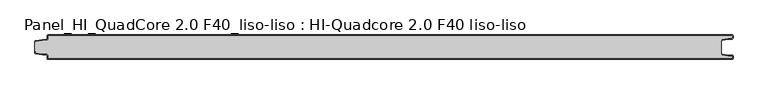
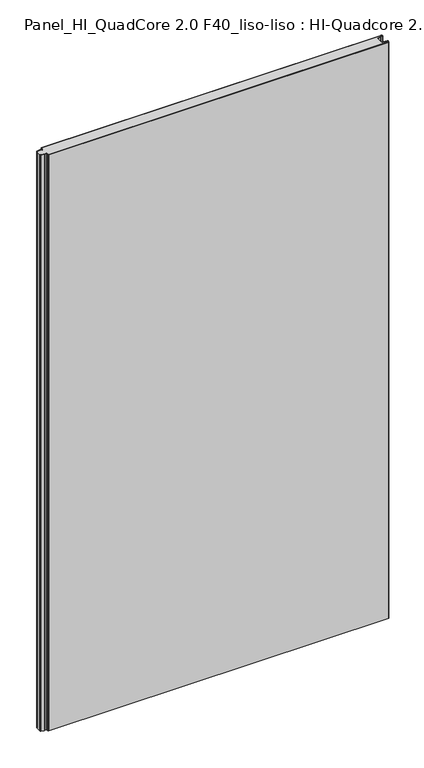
"""IFC4 building model written with IfcOpenShell, lengths in millimetres: proxy geometry, Panel_HI_QuadCore 2.0 F40_liso-liso : HI-Quadcore 2.0 F40 liso-liso."""

from ifc_helpers import new_model, si_unit, frame, origin, place, context, project, spatial, polyline, circle_curve, source, transform, mapped, element, save
from ifc_brep_helpers import plane_surface, cylinder_surface, revolved_surface, advanced_brep


def panel_hi_quadcore_2_0_f40_liso_liso_hi_quadcore_2_0_f40_liso_9a9d5de7(model_context):
    return source(origin(), model_context, "Body", "AdvancedBrep", [
        advanced_brep(
        [(-569.749769, 9.1481606, 2000.0), (-568.949769, 9.1481606, 2000.0), (-568.3256589, 9.9285853, 2000.0), (-557.4184469, 11.6653196, 2000.0), (-556.6203766, 11.7, 2000.0), (-551.2778156, 11.7, 2000.0), (-548.878158, 14.1405306, 2000.0), (-548.9498729, 18.3864898, 2000.0), (-548.149987, 19.2, 2000.0), (568.1727824, 19.2, 2000.0), (568.9534193, 18.5748531, 2000.0), (568.88074, 14.6849948, 2000.0), (568.0808796, 13.8999396, 2000.0), (562.879136, 13.8999396, 2000.0), (561.808194, 13.8495248, 2000.0), (552.0886544, 12.3019012, 2000.0), (552.2144521, 11.5118538, 2000.0), (561.908313, 13.0553886, 2000.0), (562.879136, 13.0999396, 2000.0), (568.0808796, 13.0999396, 2000.0), (569.6806004, 14.67005, 2000.0), (569.7547679, 18.63956, 2000.0), (568.1727824, 19.9995126, 2000.0), (-548.1499863, 20.0, 2000.0), (-549.7497588, 18.3729796, 2000.0), (-549.6780439, 14.1270204, 2000.0), (-551.2778156, 12.5, 2000.0), (-556.6203766, 12.5, 2000.0), (-557.5167536, 12.4597444, 2000.0), (-568.4723295, 10.7153092, 2000.0), (-569.749769, 9.1481606, 0.0), (-568.4723295, 10.7153092, 0.0), (-557.5167536, 12.4597444, 0.0), (-556.6203766, 12.5, 0.0), (-551.2778156, 12.5, 0.0), (-549.6780439, 14.1270204, 0.0), (-549.7497588, 18.3729796, 0.0), (-548.1499863, 20.0, 0.0), (568.1727824, 19.9995126, 0.0), (569.7547679, 18.63956, 0.0), (569.6806004, 14.67005, 0.0), (568.0808796, 13.0999396, 0.0), (562.879136, 13.0999396, 0.0), (561.908313, 13.0553886, 0.0), (552.2144521, 11.5118538, 0.0), (552.0886544, 12.3019012, 0.0), (561.808194, 13.8495248, 0.0), (562.879136, 13.8999396, 0.0), (568.0808796, 13.8999396, 0.0), (568.88074, 14.6849948, 0.0), (568.9534193, 18.5748531, 0.0), (568.1727824, 19.1995126, 0.0), (-548.149987, 19.2, 0.0), (-548.9498729, 18.3864898, 0.0), (-548.878158, 14.1405306, 0.0), (-551.2778156, 11.7, 0.0), (-556.6203766, 11.7, 0.0), (-557.4184469, 11.6653196, 0.0), (-568.3256589, 9.9285853, 0.0), (-568.949769, 9.1481606, 0.0)],
        [
            (0, 1),
            (1, 2, circle_curve(frame((-568.149769, 9.1481606, 2000.0), z_axis=(0.0, 0.0, -1.0), x_axis=(1.0, 0.0, 0.0)), 0.8)),
            (2, 3),
            (3, 4, circle_curve(frame((-556.6203766, 2.5, 2000.0), z_axis=(0.0, 0.0, -1.0), x_axis=(1.0, 0.0, 0.0)), 9.2)),
            (4, 5),
            (5, 6, circle_curve(frame((-551.2778156, 14.1, 2000.0), z_axis=(0.0, 0.0, 1.0), x_axis=(1.0, 0.0, 0.0)), 2.3999999)),
            (6, 7),
            (7, 8, circle_curve(frame((-548.149987, 18.4, 2000.0), z_axis=(0.0, 0.0, -1.0), x_axis=(1.0, 0.0, 0.0)), 0.8)),
            (8, 9),
            (9, 10, circle_curve(frame((568.1727824, 18.3994019, 2000.0), z_axis=(0.0, 0.0, -1.0), x_axis=(1.0, 0.0, 0.0)), 0.8001106)),
            (10, 11),
            (11, 12, circle_curve(frame((568.0808796, 14.6999396, 2000.0), z_axis=(0.0, 0.0, -1.0), x_axis=(1.0, 0.0, 0.0)), 0.8)),
            (12, 13),
            (13, 14, circle_curve(frame((562.879136, 2.4999396, 2000.0), z_axis=(0.0, 0.0, 1.0), x_axis=(1.0, 0.0, 0.0)), 11.4)),
            (14, 15),
            (15, 16),
            (16, 17),
            (17, 18, circle_curve(frame((562.879136, 2.4999396, 2000.0), z_axis=(0.0, 0.0, -1.0), x_axis=(1.0, 0.0, 0.0)), 10.6)),
            (18, 19),
            (19, 20, circle_curve(frame((568.0808796, 14.6999396, 2000.0), z_axis=(0.0, 0.0, 1.0), x_axis=(1.0, 0.0, 0.0)), 1.6)),
            (20, 21),
            (21, 22, circle_curve(frame((568.1727824, 18.3994019, 2000.0), z_axis=(0.0, 0.0, 1.0), x_axis=(1.0, 0.0, 0.0)), 1.6001106)),
            (22, 23),
            (23, 24, circle_curve(frame((-548.149987, 18.4, 2000.0), z_axis=(0.0, 0.0, 1.0), x_axis=(1.0, 0.0, 0.0)), 1.6)),
            (24, 25),
            (25, 26, circle_curve(frame((-551.2778156, 14.1, 2000.0), z_axis=(0.0, 0.0, -1.0), x_axis=(1.0, 0.0, 0.0)), 1.5999999)),
            (26, 27),
            (27, 28, circle_curve(frame((-556.6203766, 2.5, 2000.0), z_axis=(0.0, 0.0, 1.0), x_axis=(1.0, 0.0, 0.0)), 10.0)),
            (28, 29),
            (29, 0, circle_curve(frame((-568.149769, 9.1481606, 2000.0), z_axis=(0.0, 0.0, 1.0), x_axis=(1.0, 0.0, 0.0)), 1.6)),
            (30, 31, circle_curve(frame((-568.149769, 9.1481606, 0.0), z_axis=(0.0, 0.0, -1.0), x_axis=(1.0, 0.0, 0.0)), 1.6)),
            (31, 32),
            (32, 33, circle_curve(frame((-556.6203766, 2.5, 0.0), z_axis=(0.0, 0.0, -1.0), x_axis=(1.0, 0.0, 0.0)), 10.0)),
            (33, 34),
            (34, 35, circle_curve(frame((-551.2778156, 14.1, 0.0), z_axis=(0.0, 0.0, 1.0), x_axis=(1.0, 0.0, 0.0)), 1.5999999)),
            (35, 36),
            (36, 37, circle_curve(frame((-548.149987, 18.4, 0.0), z_axis=(0.0, 0.0, -1.0), x_axis=(1.0, 0.0, 0.0)), 1.6)),
            (37, 38),
            (38, 39, circle_curve(frame((568.1727824, 18.3994019, 0.0), z_axis=(0.0, 0.0, -1.0), x_axis=(1.0, 0.0, 0.0)), 1.6001106)),
            (39, 40),
            (40, 41, circle_curve(frame((568.0808796, 14.6999396, 0.0), z_axis=(0.0, 0.0, -1.0), x_axis=(1.0, 0.0, 0.0)), 1.6)),
            (41, 42),
            (42, 43, circle_curve(frame((562.879136, 2.4999396, 0.0), z_axis=(0.0, 0.0, 1.0), x_axis=(1.0, 0.0, 0.0)), 10.6)),
            (43, 44),
            (44, 45),
            (45, 46),
            (46, 47, circle_curve(frame((562.879136, 2.4999396, 0.0), z_axis=(0.0, 0.0, -1.0), x_axis=(1.0, 0.0, 0.0)), 11.4)),
            (47, 48),
            (48, 49, circle_curve(frame((568.0808796, 14.6999396, 0.0), z_axis=(0.0, 0.0, 1.0), x_axis=(1.0, 0.0, 0.0)), 0.8)),
            (49, 50),
            (50, 51, circle_curve(frame((568.1727824, 18.3994019, 0.0), z_axis=(0.0, 0.0, 1.0), x_axis=(1.0, 0.0, 0.0)), 0.8001106)),
            (51, 52),
            (52, 53, circle_curve(frame((-548.149987, 18.4, 0.0), z_axis=(0.0, 0.0, 1.0), x_axis=(1.0, 0.0, 0.0)), 0.8)),
            (53, 54),
            (54, 55, circle_curve(frame((-551.2778156, 14.1, 0.0), z_axis=(0.0, 0.0, -1.0), x_axis=(1.0, 0.0, 0.0)), 2.3999999)),
            (55, 56),
            (56, 57, circle_curve(frame((-556.6203766, 2.5, 0.0), z_axis=(0.0, 0.0, 1.0), x_axis=(1.0, 0.0, 0.0)), 9.2)),
            (57, 58),
            (58, 59, circle_curve(frame((-568.149769, 9.1481606, 0.0), z_axis=(0.0, 0.0, 1.0), x_axis=(1.0, 0.0, 0.0)), 0.8)),
            (59, 30),
            (29, 31),
            (30, 0),
            (28, 32),
            (27, 33),
            (26, 34),
            (25, 35),
            (24, 36),
            (23, 37),
            (22, 38),
            (21, 39),
            (20, 40),
            (19, 41),
            (18, 42),
            (17, 43),
            (16, 44),
            (14, 46),
            (45, 15),
            (13, 47),
            (12, 48),
            (11, 49),
            (10, 50),
            (9, 51),
            (8, 52),
            (7, 53),
            (6, 54),
            (5, 55),
            (4, 56),
            (3, 57),
            (2, 58),
            (1, 59),
        ],
        [
            plane_surface(frame((-566.549769, 9.1481606, 2000.0), z_axis=(0.0, 0.0, 1.0), x_axis=(0.0, -1.0, 0.0))),
            plane_surface(frame((-566.549769, 9.1481606, 0.0), z_axis=(0.0, 0.0, -1.0), x_axis=(0.0, 1.0, 0.0))),
            cylinder_surface(frame((-568.149769, 9.1481606, 0.0), z_axis=(0.0, 0.0, 1.0), x_axis=(1.0, 0.0, 0.0)), 1.6),
            plane_surface(frame((-568.4723295, 10.7153092, 2000.0), z_axis=(-0.15724715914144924, 0.9875592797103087, 0.0), x_axis=(0.0, 0.0, -1.0))),
            cylinder_surface(frame((-556.6203766, 2.5, 0.0), z_axis=(0.0, 0.0, 1.0), x_axis=(1.0, 0.0, 0.0)), 10.0),
            plane_surface(frame((-556.6203766, 12.5, 2000.0), z_axis=(0.0, 1.0, 0.0), x_axis=(0.0, 0.0, -1.0))),
            revolved_surface(polyline([(-549.6778157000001, 14.1, 0.0), (-549.6778157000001, 14.1, 2000.0)]), (-551.2778156, 14.1, 0.0), (0.0, 0.0, -1.0)),
            plane_surface(frame((-549.6780439, 14.1270204, 2000.0), z_axis=(-0.9998573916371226, -0.016887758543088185, 0.0), x_axis=(0.0, 0.0, -1.0))),
            cylinder_surface(frame((-548.149987, 18.4, 0.0), z_axis=(0.0, 0.0, 1.0), x_axis=(1.0, 0.0, 0.0)), 1.6),
            plane_surface(frame((-548.1499863, 20.0, 2000.0), z_axis=(4.3665492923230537e-07, 0.9999999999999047, 0.0), x_axis=(0.0, 0.0, -1.0))),
            cylinder_surface(frame((568.1727824, 18.3994019, 0.0), z_axis=(0.0, 0.0, 1.0), x_axis=(1.0, 0.0, 0.0)), 1.6001106),
            plane_surface(frame((569.7547679, 18.63956, 2000.0), z_axis=(0.9998254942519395, -0.018681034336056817, 0.0), x_axis=(0.0, 0.0, -1.0))),
            cylinder_surface(frame((568.0808796, 14.6999396, 0.0), z_axis=(0.0, 0.0, 1.0), x_axis=(1.0, 0.0, 0.0)), 1.6),
            plane_surface(frame((568.0808796, 13.0999396, 2000.0), z_axis=(0.0, -1.0, 0.0), x_axis=(0.0, 0.0, -1.0))),
            revolved_surface(polyline([(573.479136, 2.4999396, 0.0), (573.479136, 2.4999396, 2000.0)]), (562.879136, 2.4999396, 0.0), (0.0, 0.0, -1.0)),
            plane_surface(frame((561.908313, 13.0553886, 2000.0), z_axis=(0.15724715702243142, -0.9875592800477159, 0.0), x_axis=(0.0, 0.0, -1.0))),
            plane_surface(frame((552.0886544, 12.3019012, 2000.0), z_axis=(-0.1572471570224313, 0.9875592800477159, 0.0), x_axis=(0.0, 0.0, -1.0))),
            cylinder_surface(frame((562.879136, 2.4999396, 0.0), z_axis=(0.0, 0.0, 1.0), x_axis=(1.0, 0.0, 0.0)), 11.4),
            plane_surface(frame((562.879136, 13.8999396, 2000.0), z_axis=(0.0, 1.0, 0.0), x_axis=(0.0, 0.0, -1.0))),
            revolved_surface(polyline([(568.8808796, 14.6999396, 0.0), (568.8808796, 14.6999396, 2000.0)]), (568.0808796, 14.6999396, 0.0), (0.0, 0.0, -1.0)),
            plane_surface(frame((568.88074, 14.6849948, 2000.0), z_axis=(-0.9998254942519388, 0.018681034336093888, 0.0), x_axis=(0.0, 0.0, -1.0))),
            revolved_surface(polyline([(568.972893, 18.3994019, 0.0), (568.972893, 18.3994019, 2000.0)]), (568.1727824, 18.3994019, 0.0), (0.0, 0.0, -1.0)),
            plane_surface(frame((568.1727824, 19.2, 2000.0), z_axis=(0.0, -1.0, 0.0), x_axis=(0.0, 0.0, -1.0))),
            revolved_surface(polyline([(-547.349987, 18.4, 0.0), (-547.349987, 18.4, 2000.0)]), (-548.149987, 18.4, 0.0), (0.0, 0.0, -1.0)),
            plane_surface(frame((-548.9498729, 18.3864898, 2000.0), z_axis=(0.9998573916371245, 0.01688775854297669, 0.0), x_axis=(0.0, 0.0, -1.0))),
            cylinder_surface(frame((-551.2778156, 14.1, 0.0), z_axis=(0.0, 0.0, 1.0), x_axis=(1.0, 0.0, 0.0)), 2.3999999),
            plane_surface(frame((-551.2778156, 11.7, 2000.0), z_axis=(0.0, -1.0, 0.0), x_axis=(0.0, 0.0, -1.0))),
            revolved_surface(polyline([(-547.4203765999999, 2.5, 0.0), (-547.4203765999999, 2.5, 2000.0)]), (-556.6203766, 2.5, 0.0), (0.0, 0.0, -1.0)),
            plane_surface(frame((-557.4184469, 11.6653196, 2000.0), z_axis=(0.15724715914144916, -0.9875592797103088, 0.0), x_axis=(0.0, 0.0, -1.0))),
            revolved_surface(polyline([(-567.349769, 9.1481606, 0.0), (-567.349769, 9.1481606, 2000.0)]), (-568.149769, 9.1481606, 0.0), (0.0, 0.0, -1.0)),
            plane_surface(frame((552.2144521, 11.5118538, 2000.0), z_axis=(-0.9875592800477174, -0.15724715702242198, 0.0), x_axis=(0.0, 0.0, -1.0))),
            plane_surface(frame((-568.949769, 9.1481606, 2000.0), z_axis=(0.0, -1.0, 0.0), x_axis=(0.0, 0.0, -1.0))),
        ],
        [
            (0, [[1, 2, 3, 4, 5, 6, 7, 8, 9, 10, 11, 12, 13, 14, 15, 16, 17, 18, 19, 20, 21, 22, 23, 24, 25, 26, 27, 28, 29, 30]]),
            (1, [[31, 32, 33, 34, 35, 36, 37, 38, 39, 40, 41, 42, 43, 44, 45, 46, 47, 48, 49, 50, 51, 52, 53, 54, 55, 56, 57, 58, 59, 60]]),
            (2, [[61, -31, 62, -30]]),
            (3, [[63, -32, -61, -29]]),
            (4, [[64, -33, -63, -28]]),
            (5, [[65, -34, -64, -27]]),
            (6, [[66, -35, -65, -26]]),
            (7, [[67, -36, -66, -25]]),
            (8, [[68, -37, -67, -24]]),
            (9, [[69, -38, -68, -23]]),
            (10, [[70, -39, -69, -22]]),
            (11, [[71, -40, -70, -21]]),
            (12, [[72, -41, -71, -20]]),
            (13, [[73, -42, -72, -19]]),
            (14, [[74, -43, -73, -18]]),
            (15, [[75, -44, -74, -17]]),
            (16, [[76, -46, 77, -15]]),
            (17, [[78, -47, -76, -14]]),
            (18, [[79, -48, -78, -13]]),
            (19, [[80, -49, -79, -12]]),
            (20, [[81, -50, -80, -11]]),
            (21, [[82, -51, -81, -10]]),
            (22, [[83, -52, -82, -9]]),
            (23, [[84, -53, -83, -8]]),
            (24, [[85, -54, -84, -7]]),
            (25, [[86, -55, -85, -6]]),
            (26, [[87, -56, -86, -5]]),
            (27, [[88, -57, -87, -4]]),
            (28, [[89, -58, -88, -3]]),
            (29, [[90, -59, -89, -2]]),
            (30, [[-77, -45, -75, -16]]),
            (31, [[-62, -60, -90, -1]]),
        ],
    ),
        advanced_brep(
        [(-569.749769, -7.1482, 2000.0), (-569.749769, -9.1481606, 2000.0), (-568.4723295, -10.7153092, 2000.0), (-557.5167536, -12.4597444, 2000.0), (-556.6203766, -12.5, 2000.0), (-551.2778156, -12.5, 2000.0), (-549.6780439, -14.1270204, 2000.0), (-549.7497588, -18.3729796, 2000.0), (-548.149987, -20.0, 2000.0), (568.1727824, -20.0, 2000.0), (569.7547679, -18.63956, 2000.0), (569.6806004, -14.67005, 2000.0), (568.0808796, -13.0999396, 2000.0), (562.879136, -13.0999396, 2000.0), (561.908313, -13.0553886, 2000.0), (552.2144521, -11.5118538, 2000.0), (552.0886544, -12.3019012, 2000.0), (561.808194, -13.8495248, 2000.0), (562.879136, -13.8999396, 2000.0), (568.0808796, -13.8999396, 2000.0), (568.88074, -14.6849948, 2000.0), (568.9534193, -18.5748531, 2000.0), (568.1727824, -19.1995126, 2000.0), (-548.1499788, -19.1995126, 2000.0), (-548.9498647, -18.3860023, 2000.0), (-548.878158, -14.1405306, 2000.0), (-551.2778156, -11.7, 2000.0), (-556.6203766, -11.7, 2000.0), (-557.4184469, -11.6653196, 2000.0), (-568.3256589, -9.9285853, 2000.0), (-568.949769, -9.1481606, 2000.0), (-568.949769, -7.1482, 2000.0), (-569.749769, -7.1482, 0.0), (-568.949769, -7.1482, 0.0), (-568.949769, -9.1481606, 0.0), (-568.3256589, -9.9285853, 0.0), (-557.4184469, -11.6653196, 0.0), (-556.6203766, -11.7, 0.0), (-551.2778156, -11.7, 0.0), (-548.878158, -14.1405306, 0.0), (-548.9498647, -18.3860023, 0.0), (-548.1499788, -19.1995126, 0.0), (568.1727824, -19.1995126, 0.0), (568.9534193, -18.5748531, 0.0), (568.88074, -14.6849948, 0.0), (568.0808796, -13.8999396, 0.0), (562.879136, -13.8999396, 0.0), (561.808194, -13.8495248, 0.0), (552.0886544, -12.3019012, 0.0), (552.2144521, -11.5118538, 0.0), (561.908313, -13.0553886, 0.0), (562.879136, -13.0999396, 0.0), (568.0808796, -13.0999396, 0.0), (569.6806004, -14.67005, 0.0), (569.7547679, -18.63956, 0.0), (568.1727824, -19.9995126, 0.0), (-548.149987, -20.0, 0.0), (-549.7497588, -18.3729796, 0.0), (-549.6780439, -14.1270204, 0.0), (-551.2778156, -12.5, 0.0), (-556.6203766, -12.5, 0.0), (-557.5167536, -12.4597444, 0.0), (-568.4723295, -10.7153092, 0.0), (-569.749769, -9.1481606, 0.0)],
        [
            (0, 1),
            (1, 2, circle_curve(frame((-568.149769, -9.1481606, 2000.0), z_axis=(0.0, 0.0, 1.0), x_axis=(1.0, 0.0, 0.0)), 1.6)),
            (2, 3),
            (3, 4, circle_curve(frame((-556.6203766, -2.5, 2000.0), z_axis=(0.0, 0.0, 1.0), x_axis=(1.0, 0.0, 0.0)), 10.0)),
            (4, 5),
            (5, 6, circle_curve(frame((-551.2778156, -14.1, 2000.0), z_axis=(0.0, 0.0, -1.0), x_axis=(1.0, 0.0, 0.0)), 1.5999999)),
            (6, 7),
            (7, 8, circle_curve(frame((-548.149987, -18.4, 2000.0), z_axis=(0.0, 0.0, 1.0), x_axis=(1.0, 0.0, 0.0)), 1.6)),
            (8, 9),
            (9, 10, circle_curve(frame((568.1727824, -18.3994019, 2000.0), z_axis=(0.0, 0.0, 1.0), x_axis=(1.0, 0.0, 0.0)), 1.6001106)),
            (10, 11),
            (11, 12, circle_curve(frame((568.0808796, -14.6999396, 2000.0), z_axis=(0.0, 0.0, 1.0), x_axis=(1.0, 0.0, 0.0)), 1.6)),
            (12, 13),
            (13, 14, circle_curve(frame((562.879136, -2.4999396, 2000.0), z_axis=(0.0, 0.0, -1.0), x_axis=(1.0, 0.0, 0.0)), 10.6)),
            (14, 15),
            (15, 16),
            (16, 17),
            (17, 18, circle_curve(frame((562.879136, -2.4999396, 2000.0), z_axis=(0.0, 0.0, 1.0), x_axis=(1.0, 0.0, 0.0)), 11.4)),
            (18, 19),
            (19, 20, circle_curve(frame((568.0808796, -14.6999396, 2000.0), z_axis=(0.0, 0.0, -1.0), x_axis=(1.0, 0.0, 0.0)), 0.8)),
            (20, 21),
            (21, 22, circle_curve(frame((568.1727824, -18.3994019, 2000.0), z_axis=(0.0, 0.0, -1.0), x_axis=(1.0, 0.0, 0.0)), 0.8001106)),
            (22, 23),
            (23, 24, circle_curve(frame((-548.1499788, -18.3995126, 2000.0), z_axis=(0.0, 0.0, -1.0), x_axis=(1.0, 0.0, 0.0)), 0.8)),
            (24, 25),
            (25, 26, circle_curve(frame((-551.2778156, -14.1, 2000.0), z_axis=(0.0, 0.0, 1.0), x_axis=(1.0, 0.0, 0.0)), 2.3999999)),
            (26, 27),
            (27, 28, circle_curve(frame((-556.6203766, -2.5, 2000.0), z_axis=(0.0, 0.0, -1.0), x_axis=(1.0, 0.0, 0.0)), 9.2)),
            (28, 29),
            (29, 30, circle_curve(frame((-568.149769, -9.1481606, 2000.0), z_axis=(0.0, 0.0, -1.0), x_axis=(1.0, 0.0, 0.0)), 0.8)),
            (30, 31),
            (31, 0),
            (32, 33),
            (33, 34),
            (34, 35, circle_curve(frame((-568.149769, -9.1481606, 0.0), z_axis=(0.0, 0.0, 1.0), x_axis=(1.0, 0.0, 0.0)), 0.8)),
            (35, 36),
            (36, 37, circle_curve(frame((-556.6203766, -2.5, 0.0), z_axis=(0.0, 0.0, 1.0), x_axis=(1.0, 0.0, 0.0)), 9.2)),
            (37, 38),
            (38, 39, circle_curve(frame((-551.2778156, -14.1, 0.0), z_axis=(0.0, 0.0, -1.0), x_axis=(1.0, 0.0, 0.0)), 2.3999999)),
            (39, 40),
            (40, 41, circle_curve(frame((-548.1499788, -18.3995126, 0.0), z_axis=(0.0, 0.0, 1.0), x_axis=(1.0, 0.0, 0.0)), 0.8)),
            (41, 42),
            (42, 43, circle_curve(frame((568.1727824, -18.3994019, 0.0), z_axis=(0.0, 0.0, 1.0), x_axis=(1.0, 0.0, 0.0)), 0.8001106)),
            (43, 44),
            (44, 45, circle_curve(frame((568.0808796, -14.6999396, 0.0), z_axis=(0.0, 0.0, 1.0), x_axis=(1.0, 0.0, 0.0)), 0.8)),
            (45, 46),
            (46, 47, circle_curve(frame((562.879136, -2.4999396, 0.0), z_axis=(0.0, 0.0, -1.0), x_axis=(1.0, 0.0, 0.0)), 11.4)),
            (47, 48),
            (48, 49),
            (49, 50),
            (50, 51, circle_curve(frame((562.879136, -2.4999396, 0.0), z_axis=(0.0, 0.0, 1.0), x_axis=(1.0, 0.0, 0.0)), 10.6)),
            (51, 52),
            (52, 53, circle_curve(frame((568.0808796, -14.6999396, 0.0), z_axis=(0.0, 0.0, -1.0), x_axis=(1.0, 0.0, 0.0)), 1.6)),
            (53, 54),
            (54, 55, circle_curve(frame((568.1727824, -18.3994019, 0.0), z_axis=(0.0, 0.0, -1.0), x_axis=(1.0, 0.0, 0.0)), 1.6001106)),
            (55, 56),
            (56, 57, circle_curve(frame((-548.149987, -18.4, 0.0), z_axis=(0.0, 0.0, -1.0), x_axis=(1.0, 0.0, 0.0)), 1.6)),
            (57, 58),
            (58, 59, circle_curve(frame((-551.2778156, -14.1, 0.0), z_axis=(0.0, 0.0, 1.0), x_axis=(1.0, 0.0, 0.0)), 1.5999999)),
            (59, 60),
            (60, 61, circle_curve(frame((-556.6203766, -2.5, 0.0), z_axis=(0.0, 0.0, -1.0), x_axis=(1.0, 0.0, 0.0)), 10.0)),
            (61, 62),
            (62, 63, circle_curve(frame((-568.149769, -9.1481606, 0.0), z_axis=(0.0, 0.0, -1.0), x_axis=(1.0, 0.0, 0.0)), 1.6)),
            (63, 32),
            (0, 32),
            (63, 1),
            (62, 2),
            (61, 3),
            (60, 4),
            (59, 5),
            (58, 6),
            (57, 7),
            (56, 8),
            (55, 9),
            (54, 10),
            (53, 11),
            (52, 12),
            (51, 13),
            (50, 14),
            (49, 15),
            (16, 48),
            (47, 17),
            (46, 18),
            (45, 19),
            (44, 20),
            (43, 21),
            (42, 22),
            (41, 23),
            (40, 24),
            (39, 25),
            (38, 26),
            (37, 27),
            (36, 28),
            (35, 29),
            (34, 30),
            (33, 31),
        ],
        [
            plane_surface(frame((-569.749769, -9.1481606, 2000.0), z_axis=(0.0, 0.0, 1.0), x_axis=(0.0, -1.0, 0.0))),
            plane_surface(frame((-569.749769, -9.1481606, 0.0), z_axis=(0.0, 0.0, -1.0), x_axis=(0.0, 1.0, 0.0))),
            plane_surface(frame((-569.749769, -7.1482, 2000.0), z_axis=(-1.0, 0.0, 0.0), x_axis=(0.0, 0.0, -1.0))),
            cylinder_surface(frame((-568.149769, -9.1481606, 0.0), z_axis=(0.0, 0.0, 1.0), x_axis=(1.0, 0.0, 0.0)), 1.6),
            plane_surface(frame((-568.4723295, -10.7153092, 2000.0), z_axis=(-0.15724715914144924, -0.9875592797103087, 0.0), x_axis=(0.0, 0.0, -1.0))),
            cylinder_surface(frame((-556.6203766, -2.5, 0.0), z_axis=(0.0, 0.0, 1.0), x_axis=(1.0, 0.0, 0.0)), 10.0),
            plane_surface(frame((-556.6203766, -12.5, 2000.0), z_axis=(0.0, -1.0, 0.0), x_axis=(0.0, 0.0, -1.0))),
            revolved_surface(polyline([(-549.6778157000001, -14.1, 0.0), (-549.6778157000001, -14.1, 2000.0)]), (-551.2778156, -14.1, 0.0), (0.0, 0.0, -1.0)),
            plane_surface(frame((-549.6780439, -14.1270204, 2000.0), z_axis=(-0.9998573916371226, 0.016887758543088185, 0.0), x_axis=(0.0, 0.0, -1.0))),
            cylinder_surface(frame((-548.149987, -18.4, 0.0), z_axis=(0.0, 0.0, 1.0), x_axis=(1.0, 0.0, 0.0)), 1.6),
            plane_surface(frame((-548.149987, -20.0, 2000.0), z_axis=(0.0, -1.0, 0.0), x_axis=(0.0, 0.0, -1.0))),
            cylinder_surface(frame((568.1727824, -18.3994019, 0.0), z_axis=(0.0, 0.0, 1.0), x_axis=(1.0, 0.0, 0.0)), 1.6001106),
            plane_surface(frame((569.7547679, -18.63956, 2000.0), z_axis=(0.9998254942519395, 0.018681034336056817, 0.0), x_axis=(0.0, 0.0, -1.0))),
            cylinder_surface(frame((568.0808796, -14.6999396, 0.0), z_axis=(0.0, 0.0, 1.0), x_axis=(1.0, 0.0, 0.0)), 1.6),
            plane_surface(frame((568.0808796, -13.0999396, 2000.0), z_axis=(0.0, 1.0, 0.0), x_axis=(0.0, 0.0, -1.0))),
            revolved_surface(polyline([(573.479136, -2.4999396, 0.0), (573.479136, -2.4999396, 2000.0)]), (562.879136, -2.4999396, 0.0), (0.0, 0.0, -1.0)),
            plane_surface(frame((561.908313, -13.0553886, 2000.0), z_axis=(0.15724715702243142, 0.9875592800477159, 0.0), x_axis=(0.0, 0.0, -1.0))),
            plane_surface(frame((552.0886544, -12.3019012, 2000.0), z_axis=(-0.1572471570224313, -0.9875592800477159, 0.0), x_axis=(0.0, 0.0, -1.0))),
            cylinder_surface(frame((562.879136, -2.4999396, 0.0), z_axis=(0.0, 0.0, 1.0), x_axis=(1.0, 0.0, 0.0)), 11.4),
            plane_surface(frame((562.879136, -13.8999396, 2000.0), z_axis=(0.0, -1.0, 0.0), x_axis=(0.0, 0.0, -1.0))),
            revolved_surface(polyline([(568.8808796, -14.6999396, 0.0), (568.8808796, -14.6999396, 2000.0)]), (568.0808796, -14.6999396, 0.0), (0.0, 0.0, -1.0)),
            plane_surface(frame((568.88074, -14.6849948, 2000.0), z_axis=(-0.9998254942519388, -0.018681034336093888, 0.0), x_axis=(0.0, 0.0, -1.0))),
            revolved_surface(polyline([(568.972893, -18.3994019, 0.0), (568.972893, -18.3994019, 2000.0)]), (568.1727824, -18.3994019, 0.0), (0.0, 0.0, -1.0)),
            plane_surface(frame((568.1727824, -19.1995126, 2000.0), z_axis=(0.0, 1.0, 0.0), x_axis=(0.0, 0.0, -1.0))),
            revolved_surface(polyline([(-547.3499788, -18.3995126, 0.0), (-547.3499788, -18.3995126, 2000.0)]), (-548.1499788, -18.3995126, 0.0), (0.0, 0.0, -1.0)),
            plane_surface(frame((-548.9498647, -18.3860023, 2000.0), z_axis=(0.9998573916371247, -0.016887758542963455, 0.0), x_axis=(0.0, 0.0, -1.0))),
            cylinder_surface(frame((-551.2778156, -14.1, 0.0), z_axis=(0.0, 0.0, 1.0), x_axis=(1.0, 0.0, 0.0)), 2.3999999),
            plane_surface(frame((-551.2778156, -11.7, 2000.0), z_axis=(0.0, 1.0, 0.0), x_axis=(0.0, 0.0, -1.0))),
            revolved_surface(polyline([(-547.4203765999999, -2.5, 0.0), (-547.4203765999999, -2.5, 2000.0)]), (-556.6203766, -2.5, 0.0), (0.0, 0.0, -1.0)),
            plane_surface(frame((-557.4184469, -11.6653196, 2000.0), z_axis=(0.15724715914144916, 0.9875592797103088, 0.0), x_axis=(0.0, 0.0, -1.0))),
            revolved_surface(polyline([(-567.349769, -9.1481606, 0.0), (-567.349769, -9.1481606, 2000.0)]), (-568.149769, -9.1481606, 0.0), (0.0, 0.0, -1.0)),
            plane_surface(frame((-568.949769, -9.1481606, 2000.0), z_axis=(1.0, 0.0, 0.0), x_axis=(0.0, 0.0, -1.0))),
            plane_surface(frame((552.2144521, -11.5118538, 2000.0), z_axis=(-0.9875592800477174, 0.15724715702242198, 0.0), x_axis=(0.0, 0.0, -1.0))),
            plane_surface(frame((-568.949769, -7.1482, 2000.0), z_axis=(0.0, 1.0, 0.0), x_axis=(0.0, 0.0, -1.0))),
        ],
        [
            (0, [[1, 2, 3, 4, 5, 6, 7, 8, 9, 10, 11, 12, 13, 14, 15, 16, 17, 18, 19, 20, 21, 22, 23, 24, 25, 26, 27, 28, 29, 30, 31, 32]]),
            (1, [[33, 34, 35, 36, 37, 38, 39, 40, 41, 42, 43, 44, 45, 46, 47, 48, 49, 50, 51, 52, 53, 54, 55, 56, 57, 58, 59, 60, 61, 62, 63, 64]]),
            (2, [[-1, 65, -64, 66]]),
            (3, [[-2, -66, -63, 67]]),
            (4, [[-3, -67, -62, 68]]),
            (5, [[-4, -68, -61, 69]]),
            (6, [[-5, -69, -60, 70]]),
            (7, [[-6, -70, -59, 71]]),
            (8, [[-7, -71, -58, 72]]),
            (9, [[-8, -72, -57, 73]]),
            (10, [[-9, -73, -56, 74]]),
            (11, [[-10, -74, -55, 75]]),
            (12, [[-11, -75, -54, 76]]),
            (13, [[-12, -76, -53, 77]]),
            (14, [[-13, -77, -52, 78]]),
            (15, [[-14, -78, -51, 79]]),
            (16, [[-15, -79, -50, 80]]),
            (17, [[-17, 81, -48, 82]]),
            (18, [[-18, -82, -47, 83]]),
            (19, [[-19, -83, -46, 84]]),
            (20, [[-20, -84, -45, 85]]),
            (21, [[-21, -85, -44, 86]]),
            (22, [[-22, -86, -43, 87]]),
            (23, [[-23, -87, -42, 88]]),
            (24, [[-24, -88, -41, 89]]),
            (25, [[-25, -89, -40, 90]]),
            (26, [[-26, -90, -39, 91]]),
            (27, [[-27, -91, -38, 92]]),
            (28, [[-28, -92, -37, 93]]),
            (29, [[-29, -93, -36, 94]]),
            (30, [[-30, -94, -35, 95]]),
            (31, [[-31, -95, -34, 96]]),
            (32, [[-16, -80, -49, -81]]),
            (33, [[-32, -96, -33, -65]]),
        ],
    ),
        advanced_brep(
        [(-568.949769, 9.1481606, 2000.0), (-569.749769, 9.1481606, 2000.0), (-569.749769, -7.1482, 2000.0), (-568.949769, -7.1482, 2000.0), (-568.949769, -9.1481606, 2000.0), (-568.3256589, -9.9285853, 2000.0), (-557.4184469, -11.6653196, 2000.0), (-556.6203766, -11.7, 2000.0), (-551.2778156, -11.7, 2000.0), (-548.878158, -14.1405306, 2000.0), (-548.9498729, -18.3864898, 2000.0), (-548.149987, -19.2, 2000.0), (568.1727824, -19.2, 2000.0), (568.9534193, -18.5748531, 2000.0), (568.88074, -14.6849948, 2000.0), (568.0808796, -13.8999396, 2000.0), (562.879136, -13.8999396, 2000.0), (561.808194, -13.8495248, 2000.0), (552.0886544, -12.3019012, 2000.0), (552.2150161, -11.5083119, 2000.0), (551.3479853, -11.3702556, 2000.0), (550.2711837, -10.6114486, 2000.0), (550.2711837, 10.6110286, 2000.0), (551.347983, 11.3698347, 2000.0), (552.2021958, 11.5058511, 2000.0), (552.1015739, 12.3039584, 2000.0), (561.808194, 13.8495248, 2000.0), (562.879136, 13.8999396, 2000.0), (568.0808796, 13.8999396, 2000.0), (568.88074, 14.6849948, 2000.0), (568.9534193, 18.5748531, 2000.0), (568.1727824, 19.1995126, 2000.0), (-548.149987, 19.2, 2000.0), (-548.9498729, 18.3864898, 2000.0), (-548.878158, 14.1405306, 2000.0), (-551.2778156, 11.7, 2000.0), (-556.6203766, 11.7, 2000.0), (-557.4184469, 11.6653196, 2000.0), (-568.3256589, 9.9285853, 2000.0), (-568.949769, 9.1481606, 0.0), (-568.3256589, 9.9285853, 0.0), (-557.4184469, 11.6653196, 0.0), (-556.6203766, 11.7, 0.0), (-551.3835562, 11.7, 0.0), (-548.878158, 14.1405306, 0.0), (-548.9498729, 18.3864898, 0.0), (-548.149987, 19.2, 0.0), (568.1727824, 19.2, 0.0), (568.9534193, 18.5748531, 0.0), (568.88074, 14.6849948, 0.0), (568.0808796, 13.8999396, 0.0), (562.879136, 13.8999396, 0.0), (561.808194, 13.8495248, 0.0), (552.1015739, 12.3039584, 0.0), (552.2021958, 11.5058511, 0.0), (551.347983, 11.3698347, 0.0), (550.2711837, 10.6110286, 0.0), (550.2711837, -10.6114486, 0.0), (551.3479853, -11.3702556, 0.0), (552.2150161, -11.5083119, 0.0), (552.0886544, -12.3019012, 0.0), (561.808194, -13.8495248, 0.0), (562.879136, -13.8999396, 0.0), (568.0808796, -13.8999396, 0.0), (568.88074, -14.6849948, 0.0), (568.9534193, -18.5748531, 0.0), (568.1727824, -19.1995126, 0.0), (-548.149987, -19.2, 0.0), (-548.9498729, -18.3864898, 0.0), (-548.878158, -14.1405306, 0.0), (-551.2778156, -11.7, 0.0), (-556.6203766, -11.7, 0.0), (-557.4184469, -11.6653196, 0.0), (-568.3256589, -9.9285853, 0.0), (-568.949769, -9.1481606, 0.0), (-568.949769, -7.1482, 0.0), (-569.749769, -7.1482, 0.0), (-569.749769, 9.1481606, 0.0)],
        [
            (0, 1),
            (1, 2),
            (2, 3),
            (3, 4),
            (4, 5, circle_curve(frame((-568.149769, -9.1481606, 2000.0), z_axis=(0.0, 0.0, 1.0), x_axis=(1.0, 0.0, 0.0)), 0.8)),
            (5, 6),
            (6, 7, circle_curve(frame((-556.6203766, -2.5, 2000.0), z_axis=(0.0, 0.0, 1.0), x_axis=(1.0, 0.0, 0.0)), 9.2)),
            (7, 8),
            (8, 9, circle_curve(frame((-551.2778156, -14.1, 2000.0), z_axis=(0.0, 0.0, -1.0), x_axis=(1.0, 0.0, 0.0)), 2.3999999)),
            (9, 10),
            (10, 11, circle_curve(frame((-548.149987, -18.4, 2000.0), z_axis=(0.0, 0.0, 1.0), x_axis=(1.0, 0.0, 0.0)), 0.8)),
            (11, 12),
            (12, 13, circle_curve(frame((568.1727824, -18.3994019, 2000.0), z_axis=(0.0, 0.0, 1.0), x_axis=(1.0, 0.0, 0.0)), 0.8001106)),
            (13, 14),
            (14, 15, circle_curve(frame((568.0808796, -14.6999396, 2000.0), z_axis=(0.0, 0.0, 1.0), x_axis=(1.0, 0.0, 0.0)), 0.8)),
            (15, 16),
            (16, 17, circle_curve(frame((562.879136, -2.4999396, 2000.0), z_axis=(0.0, 0.0, -1.0), x_axis=(1.0, 0.0, 0.0)), 11.4)),
            (17, 18),
            (18, 19),
            (19, 20),
            (20, 21, circle_curve(frame((552.4519479, -8.6602205, 2000.0), z_axis=(0.0, 0.0, -1.0), x_axis=(1.0, 0.0, 0.0)), 2.9262645)),
            (21, 22),
            (22, 23, circle_curve(frame((552.4519479, 8.6598005, 2000.0), z_axis=(0.0, 0.0, -1.0), x_axis=(1.0, 0.0, 0.0)), 2.9262645)),
            (23, 24),
            (24, 25),
            (25, 26),
            (26, 27, circle_curve(frame((562.879136, 2.4999396, 2000.0), z_axis=(0.0, 0.0, -1.0), x_axis=(1.0, 0.0, 0.0)), 11.4)),
            (27, 28),
            (28, 29, circle_curve(frame((568.0808796, 14.6999396, 2000.0), z_axis=(0.0, 0.0, 1.0), x_axis=(1.0, 0.0, 0.0)), 0.8)),
            (29, 30),
            (30, 31, circle_curve(frame((568.1727824, 18.3994019, 2000.0), z_axis=(0.0, 0.0, 1.0), x_axis=(1.0, 0.0, 0.0)), 0.8001106)),
            (31, 32),
            (32, 33, circle_curve(frame((-548.149987, 18.4, 2000.0), z_axis=(0.0, 0.0, 1.0), x_axis=(1.0, 0.0, 0.0)), 0.8)),
            (33, 34),
            (34, 35, circle_curve(frame((-551.2778156, 14.1, 2000.0), z_axis=(0.0, 0.0, -1.0), x_axis=(1.0, 0.0, 0.0)), 2.3999999)),
            (35, 36),
            (36, 37, circle_curve(frame((-556.6203766, 2.5, 2000.0), z_axis=(0.0, 0.0, 1.0), x_axis=(1.0, 0.0, 0.0)), 9.2)),
            (37, 38),
            (38, 0, circle_curve(frame((-568.149769, 9.1481606, 2000.0), z_axis=(0.0, 0.0, 1.0), x_axis=(1.0, 0.0, 0.0)), 0.8)),
            (39, 40, circle_curve(frame((-568.149769, 9.1481606, 0.0), z_axis=(0.0, 0.0, -1.0), x_axis=(1.0, 0.0, 0.0)), 0.8)),
            (40, 41),
            (41, 42, circle_curve(frame((-556.6203766, 2.5, 0.0), z_axis=(0.0, 0.0, -1.0), x_axis=(1.0, 0.0, 0.0)), 9.2)),
            (42, 43),
            (43, 44, circle_curve(frame((-551.2778156, 14.1, 0.0), z_axis=(0.0, 0.0, 1.0), x_axis=(1.0, 0.0, 0.0)), 2.3999999)),
            (44, 45),
            (45, 46, circle_curve(frame((-548.149987, 18.4, 0.0), z_axis=(0.0, 0.0, -1.0), x_axis=(1.0, 0.0, 0.0)), 0.8)),
            (46, 47),
            (47, 48, circle_curve(frame((568.1727824, 18.3994019, 0.0), z_axis=(0.0, 0.0, -1.0), x_axis=(1.0, 0.0, 0.0)), 0.8001106)),
            (48, 49),
            (49, 50, circle_curve(frame((568.0808796, 14.6999396, 0.0), z_axis=(0.0, 0.0, -1.0), x_axis=(1.0, 0.0, 0.0)), 0.8)),
            (50, 51),
            (51, 52, circle_curve(frame((562.879136, 2.4999396, 0.0), z_axis=(0.0, 0.0, 1.0), x_axis=(1.0, 0.0, 0.0)), 11.4)),
            (52, 53),
            (53, 54),
            (54, 55),
            (55, 56, circle_curve(frame((552.4519479, 8.6598005, 0.0), z_axis=(0.0, 0.0, 1.0), x_axis=(1.0, 0.0, 0.0)), 2.9262645)),
            (56, 57),
            (57, 58, circle_curve(frame((552.4519479, -8.6602205, 0.0), z_axis=(0.0, 0.0, 1.0), x_axis=(1.0, 0.0, 0.0)), 2.9262645)),
            (58, 59),
            (59, 60),
            (60, 61),
            (61, 62, circle_curve(frame((562.879136, -2.4999396, 0.0), z_axis=(0.0, 0.0, 1.0), x_axis=(1.0, 0.0, 0.0)), 11.4)),
            (62, 63),
            (63, 64, circle_curve(frame((568.0808796, -14.6999396, 0.0), z_axis=(0.0, 0.0, -1.0), x_axis=(1.0, 0.0, 0.0)), 0.8)),
            (64, 65),
            (65, 66, circle_curve(frame((568.1727824, -18.3994019, 0.0), z_axis=(0.0, 0.0, -1.0), x_axis=(1.0, 0.0, 0.0)), 0.8001106)),
            (66, 67),
            (67, 68, circle_curve(frame((-548.149987, -18.4, 0.0), z_axis=(0.0, 0.0, -1.0), x_axis=(1.0, 0.0, 0.0)), 0.8)),
            (68, 69),
            (69, 70, circle_curve(frame((-551.2778156, -14.1, 0.0), z_axis=(0.0, 0.0, 1.0), x_axis=(1.0, 0.0, 0.0)), 2.3999999)),
            (70, 71),
            (71, 72, circle_curve(frame((-556.6203766, -2.5, 0.0), z_axis=(0.0, 0.0, -1.0), x_axis=(1.0, 0.0, 0.0)), 9.2)),
            (72, 73),
            (73, 74, circle_curve(frame((-568.149769, -9.1481606, 0.0), z_axis=(0.0, 0.0, -1.0), x_axis=(1.0, 0.0, 0.0)), 0.8)),
            (74, 75),
            (75, 76),
            (76, 77),
            (77, 39),
            (31, 47),
            (46, 32),
            (45, 33),
            (37, 41),
            (40, 38),
            (39, 0),
            (27, 51),
            (50, 28),
            (29, 49),
            (48, 30),
            (3, 75),
            (74, 4),
            (73, 5),
            (72, 6),
            (71, 7),
            (70, 8),
            (69, 9),
            (68, 10),
            (67, 11),
            (66, 12),
            (65, 13),
            (64, 14),
            (63, 15),
            (62, 16),
            (61, 17),
            (60, 18),
            (77, 1),
            (76, 2),
            (56, 22),
            (21, 57),
            (55, 23),
            (54, 24),
            (53, 25),
            (59, 19),
            (58, 20),
            (35, 43),
            (42, 36),
            (44, 34),
            (52, 26),
        ],
        [
            plane_surface(frame((-568.949769, 9.1481606, 2000.0), z_axis=(0.0, 0.0, 1.0), x_axis=(-1.0, 0.0, 0.0))),
            plane_surface(frame((-568.949769, 9.1481606, 0.0), z_axis=(0.0, 0.0, -1.0), x_axis=(1.0, 0.0, 0.0))),
            plane_surface(frame((568.1727824, 19.2, 2000.0), z_axis=(0.0, 1.0, 0.0), x_axis=(0.0, 0.0, -1.0))),
            cylinder_surface(frame((-548.149987, 18.4, 0.0), z_axis=(0.0, 0.0, 1.0), x_axis=(1.0, 0.0, 0.0)), 0.8),
            plane_surface(frame((-557.4184469, 11.6653196, 2000.0), z_axis=(-0.15724715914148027, 0.9875592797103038, 0.0), x_axis=(0.0, 0.0, -1.0))),
            cylinder_surface(frame((-568.149769, 9.1481606, 0.0), z_axis=(0.0, 0.0, 1.0), x_axis=(1.0, 0.0, 0.0)), 0.8),
            plane_surface(frame((562.879136, 13.8999396, 2000.0), z_axis=(-1.3939111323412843e-11, -1.0, 0.0), x_axis=(0.0, 0.0, -1.0))),
            plane_surface(frame((568.88074, 14.6849948, 2000.0), z_axis=(0.9998254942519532, -0.018681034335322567, 0.0), x_axis=(0.0, 0.0, -1.0))),
            cylinder_surface(frame((568.1727824, 18.3994019, 0.0), z_axis=(0.0, 0.0, 1.0), x_axis=(1.0, 0.0, 0.0)), 0.8001106),
            plane_surface(frame((-568.949769, -7.1482, 2000.0), z_axis=(-1.0, 0.0, 0.0), x_axis=(0.0, 0.0, -1.0))),
            cylinder_surface(frame((-568.149769, -9.1481606, 0.0), z_axis=(0.0, 0.0, 1.0), x_axis=(1.0, 0.0, 0.0)), 0.8),
            plane_surface(frame((-568.3256589, -9.9285853, 2000.0), z_axis=(-0.15724715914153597, -0.987559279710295, 0.0), x_axis=(0.0, 0.0, -1.0))),
            cylinder_surface(frame((-556.6203766, -2.5, 0.0), z_axis=(0.0, 0.0, 1.0), x_axis=(1.0, 0.0, 0.0)), 9.2),
            plane_surface(frame((-556.6203766, -11.7, 2000.0), z_axis=(0.0, -1.0, 0.0), x_axis=(0.0, 0.0, -1.0))),
            revolved_surface(polyline([(-548.8778157, -14.1, 0.0), (-548.8778157, -14.1, 2000.0)]), (-551.2778156, -14.1, 0.0), (0.0, 0.0, -1.0)),
            plane_surface(frame((-548.878158, -14.1405306, 2000.0), z_axis=(-0.9998573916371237, 0.0168877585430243, 0.0), x_axis=(0.0, 0.0, -1.0))),
            cylinder_surface(frame((-548.149987, -18.4, 0.0), z_axis=(0.0, 0.0, 1.0), x_axis=(1.0, 0.0, 0.0)), 0.8),
            plane_surface(frame((-548.149987, -19.2, 2000.0), z_axis=(0.0, -1.0, 0.0), x_axis=(0.0, 0.0, -1.0))),
            cylinder_surface(frame((568.1727824, -18.3994019, 0.0), z_axis=(0.0, 0.0, 1.0), x_axis=(1.0, 0.0, 0.0)), 0.8001106),
            plane_surface(frame((568.9534193, -18.5748531, 2000.0), z_axis=(0.9998254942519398, 0.018681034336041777, 0.0), x_axis=(0.0, 0.0, -1.0))),
            cylinder_surface(frame((568.0808796, -14.6999396, 0.0), z_axis=(0.0, 0.0, 1.0), x_axis=(1.0, 0.0, 0.0)), 0.8),
            plane_surface(frame((568.0808796, -13.8999396, 2000.0), z_axis=(0.0, 1.0, 0.0), x_axis=(0.0, 0.0, -1.0))),
            revolved_surface(polyline([(574.279136, -2.4999396, 0.0), (574.279136, -2.4999396, 2000.0)]), (562.879136, -2.4999396, 0.0), (0.0, 0.0, -1.0)),
            plane_surface(frame((561.808194, -13.8495248, 2000.0), z_axis=(0.15724715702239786, 0.9875592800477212, 0.0), x_axis=(0.0, 0.0, -1.0))),
            plane_surface(frame((-568.949769, 9.1481606, 2000.0), z_axis=(0.0, 1.0, 0.0), x_axis=(0.0, 0.0, -1.0))),
            plane_surface(frame((-569.749769, 9.1481606, 2000.0), z_axis=(-1.0, 0.0, 0.0), x_axis=(0.0, 0.0, -1.0))),
            plane_surface(frame((550.2711837, 5.6, 2000.0), z_axis=(1.0, 0.0, 0.0), x_axis=(0.0, 0.0, -1.0))),
            revolved_surface(polyline([(555.3782124, 8.6598005, 0.0), (555.3782124, 8.6598005, 2000.0)]), (552.4519479, 8.6598005, 0.0), (0.0, 0.0, -1.0)),
            plane_surface(frame((551.347983, 11.3698347, 2000.0), z_axis=(0.15724908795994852, -0.9875589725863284, 0.0), x_axis=(0.0, 0.0, -1.0))),
            plane_surface(frame((552.2021958, 11.5058511, 2000.0), z_axis=(0.9921459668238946, 0.12508549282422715, 0.0), x_axis=(0.0, 0.0, -1.0))),
            plane_surface(frame((-569.749769, -7.1482, 2000.0), z_axis=(0.0, -1.0, 0.0), x_axis=(0.0, 0.0, -1.0))),
            plane_surface(frame((552.0886544, -12.3019012, 2000.0), z_axis=(0.9875592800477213, -0.15724715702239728, 0.0), x_axis=(0.0, 0.0, -1.0))),
            plane_surface(frame((552.2150161, -11.5083119, 2000.0), z_axis=(0.15724785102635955, 0.9875591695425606, 0.0), x_axis=(0.0, 0.0, -1.0))),
            revolved_surface(polyline([(555.3782124, -8.6602205, 0.0), (555.3782124, -8.6602205, 2000.0)]), (552.4519479, -8.6602205, 0.0), (0.0, 0.0, -1.0)),
            plane_surface(frame((-551.3835562, 11.7, 2000.0), z_axis=(0.0, 1.0, 0.0), x_axis=(0.0, 0.0, -1.0))),
            cylinder_surface(frame((-556.6203766, 2.5, 0.0), z_axis=(0.0, 0.0, 1.0), x_axis=(1.0, 0.0, 0.0)), 9.2),
            plane_surface(frame((-548.9498729, 18.3864898, 2000.0), z_axis=(-0.9998573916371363, -0.016887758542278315, 0.0), x_axis=(0.0, 0.0, -1.0))),
            revolved_surface(polyline([(-548.8778157, 14.1, 0.0), (-548.8778157, 14.1, 2000.0)]), (-551.2778156, 14.1, 0.0), (0.0, 0.0, -1.0)),
            plane_surface(frame((552.1015739, 12.3039584, 2000.0), z_axis=(0.1572471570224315, -0.9875592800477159, 0.0), x_axis=(0.0, 0.0, -1.0))),
            revolved_surface(polyline([(574.279136, 2.4999396, 0.0), (574.279136, 2.4999396, 2000.0)]), (562.879136, 2.4999396, 0.0), (0.0, 0.0, -1.0)),
            cylinder_surface(frame((568.0808796, 14.6999396, 0.0), z_axis=(0.0, 0.0, 1.0), x_axis=(1.0, 0.0, 0.0)), 0.8),
        ],
        [
            (0, [[1, 2, 3, 4, 5, 6, 7, 8, 9, 10, 11, 12, 13, 14, 15, 16, 17, 18, 19, 20, 21, 22, 23, 24, 25, 26, 27, 28, 29, 30, 31, 32, 33, 34, 35, 36, 37, 38, 39]]),
            (1, [[40, 41, 42, 43, 44, 45, 46, 47, 48, 49, 50, 51, 52, 53, 54, 55, 56, 57, 58, 59, 60, 61, 62, 63, 64, 65, 66, 67, 68, 69, 70, 71, 72, 73, 74, 75, 76, 77, 78]]),
            (2, [[-32, 79, -47, 80]]),
            (3, [[-33, -80, -46, 81]]),
            (4, [[-38, 82, -41, 83]]),
            (5, [[-39, -83, -40, 84]]),
            (6, [[-28, 85, -51, 86]]),
            (7, [[-30, 87, -49, 88]]),
            (8, [[-31, -88, -48, -79]]),
            (9, [[-4, 89, -75, 90]]),
            (10, [[-5, -90, -74, 91]]),
            (11, [[-6, -91, -73, 92]]),
            (12, [[-7, -92, -72, 93]]),
            (13, [[-8, -93, -71, 94]]),
            (14, [[-9, -94, -70, 95]]),
            (15, [[-10, -95, -69, 96]]),
            (16, [[-11, -96, -68, 97]]),
            (17, [[-12, -97, -67, 98]]),
            (18, [[-13, -98, -66, 99]]),
            (19, [[-14, -99, -65, 100]]),
            (20, [[-15, -100, -64, 101]]),
            (21, [[-16, -101, -63, 102]]),
            (22, [[-17, -102, -62, 103]]),
            (23, [[-18, -103, -61, 104]]),
            (24, [[-1, -84, -78, 105]]),
            (25, [[-2, -105, -77, 106]]),
            (26, [[-57, 107, -22, 108]]),
            (27, [[-23, -107, -56, 109]]),
            (28, [[-24, -109, -55, 110]]),
            (29, [[-25, -110, -54, 111]]),
            (30, [[-3, -106, -76, -89]]),
            (31, [[-19, -104, -60, 112]]),
            (32, [[-20, -112, -59, 113]]),
            (33, [[-21, -113, -58, -108]]),
            (34, [[-36, 114, -43, 115]]),
            (35, [[-37, -115, -42, -82]]),
            (36, [[-34, -81, -45, 116]]),
            (37, [[-35, -116, -44, -114]]),
            (38, [[-26, -111, -53, 117]]),
            (39, [[-27, -117, -52, -85]]),
            (40, [[-29, -86, -50, -87]]),
        ],
    ),
    ])


if __name__ == "__main__":
    model = new_model("IFC4")
    model_context = context("Model", 3, world=origin())
    ifc_project = project(units=[si_unit("LENGTHUNIT", "METRE", prefix="MILLI")], contexts=[model_context])
    site = spatial("IfcSite", under=ifc_project)
    building = spatial("IfcBuilding", under=site)
    placement = place(None, origin())
    panel_hi_quadcore_2_0_f40_liso_liso_hi_quadcore_2_0_f40_liso_shape = panel_hi_quadcore_2_0_f40_liso_liso_hi_quadcore_2_0_f40_liso_9a9d5de7(model_context)
    element("IfcBuildingElementProxy", 1, Name="Panel_HI_QuadCore 2.0 F40_liso-liso : HI-Quadcore 2.0 F40 liso-liso", ObjectType="Panel_HI_QuadCore 2.0 F40_liso-liso : HI-Quadcore 2.0 F40 liso-liso", at=placement, inside=building, context=model_context, shape_type="MappedRepresentation", body=[
        mapped(panel_hi_quadcore_2_0_f40_liso_liso_hi_quadcore_2_0_f40_liso_shape, transform((0.0, 0.0, 0.0), x_axis=(1.0, 0.0, 0.0), y_axis=(0.0, 1.0, 0.0), z_axis=(0.0, 0.0, 1.0))),
    ])
    save(model, "model.ifc")
